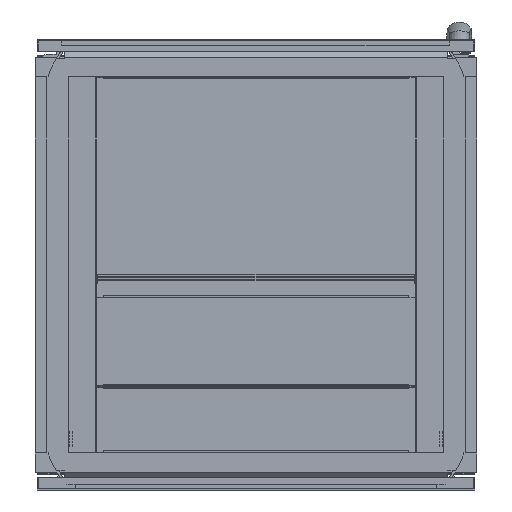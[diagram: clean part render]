
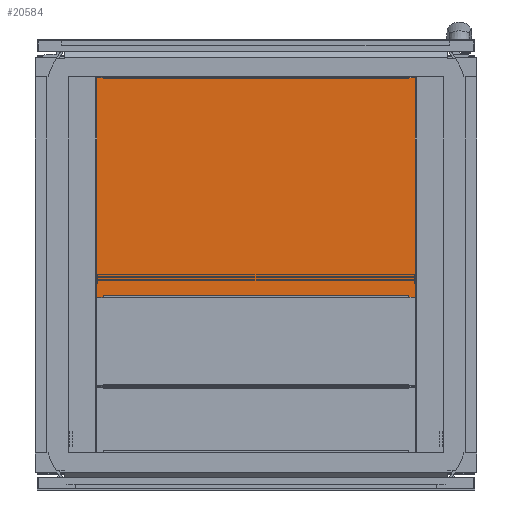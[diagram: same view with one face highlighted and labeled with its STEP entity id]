
A CAD part, front view. The second image highlights one B-rep face of the part: STEP entity #20584.
In plain terms, the highlighted planar face has unit normal (0, -1, 0).
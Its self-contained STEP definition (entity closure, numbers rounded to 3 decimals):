
#1049=ORIENTED_EDGE('',*,*,#6770,.T.);
#1050=ORIENTED_EDGE('',*,*,#6721,.T.);
#1051=ORIENTED_EDGE('',*,*,#6762,.F.);
#1052=ORIENTED_EDGE('',*,*,#6771,.F.);
#1053=ORIENTED_EDGE('',*,*,#6772,.F.);
#1054=ORIENTED_EDGE('',*,*,#6773,.F.);
#1055=ORIENTED_EDGE('',*,*,#6774,.F.);
#1056=ORIENTED_EDGE('',*,*,#6775,.F.);
#1057=ORIENTED_EDGE('',*,*,#6776,.F.);
#1058=ORIENTED_EDGE('',*,*,#6717,.T.);
#1059=ORIENTED_EDGE('',*,*,#6777,.F.);
#1060=ORIENTED_EDGE('',*,*,#6728,.F.);
#1061=ORIENTED_EDGE('',*,*,#6778,.F.);
#1062=ORIENTED_EDGE('',*,*,#6779,.F.);
#1063=ORIENTED_EDGE('',*,*,#6780,.F.);
#1064=ORIENTED_EDGE('',*,*,#6781,.F.);
#1065=ORIENTED_EDGE('',*,*,#6782,.F.);
#1066=ORIENTED_EDGE('',*,*,#6783,.F.);
#1067=ORIENTED_EDGE('',*,*,#6758,.F.);
#1068=ORIENTED_EDGE('',*,*,#6732,.F.);
#6717=EDGE_CURVE('',#9615,#9616,#11671,.T.);
#6721=EDGE_CURVE('',#9619,#9620,#11675,.T.);
#6728=EDGE_CURVE('',#9626,#9623,#11682,.T.);
#6732=EDGE_CURVE('',#9630,#9627,#11686,.T.);
#6758=EDGE_CURVE('',#9627,#9655,#11712,.T.);
#6762=EDGE_CURVE('',#9658,#9620,#11716,.T.);
#6770=EDGE_CURVE('',#9630,#9619,#11724,.T.);
#6771=EDGE_CURVE('',#9659,#9658,#11725,.T.);
#6772=EDGE_CURVE('',#9660,#9659,#11726,.T.);
#6773=EDGE_CURVE('',#9661,#9660,#11727,.T.);
#6774=EDGE_CURVE('',#9662,#9661,#11728,.T.);
#6775=EDGE_CURVE('',#9663,#9662,#11729,.T.);
#6776=EDGE_CURVE('',#9615,#9663,#11730,.T.);
#6777=EDGE_CURVE('',#9623,#9616,#11731,.T.);
#6778=EDGE_CURVE('',#9664,#9626,#11732,.T.);
#6779=EDGE_CURVE('',#9665,#9664,#11733,.T.);
#6780=EDGE_CURVE('',#9666,#9665,#11734,.T.);
#6781=EDGE_CURVE('',#9667,#9666,#11735,.T.);
#6782=EDGE_CURVE('',#9668,#9667,#11736,.T.);
#6783=EDGE_CURVE('',#9655,#9668,#11737,.T.);
#9615=VERTEX_POINT('',#29927);
#9616=VERTEX_POINT('',#29928);
#9619=VERTEX_POINT('',#29936);
#9620=VERTEX_POINT('',#29937);
#9623=VERTEX_POINT('',#29945);
#9626=VERTEX_POINT('',#29950);
#9627=VERTEX_POINT('',#29954);
#9630=VERTEX_POINT('',#29959);
#9655=VERTEX_POINT('',#30016);
#9658=VERTEX_POINT('',#30022);
#9659=VERTEX_POINT('',#30038);
#9660=VERTEX_POINT('',#30040);
#9661=VERTEX_POINT('',#30042);
#9662=VERTEX_POINT('',#30044);
#9663=VERTEX_POINT('',#30046);
#9664=VERTEX_POINT('',#30050);
#9665=VERTEX_POINT('',#30052);
#9666=VERTEX_POINT('',#30054);
#9667=VERTEX_POINT('',#30056);
#9668=VERTEX_POINT('',#30058);
#11671=LINE('',#29926,#14325);
#11675=LINE('',#29935,#14329);
#11682=LINE('',#29951,#14336);
#11686=LINE('',#29960,#14340);
#11712=LINE('',#30015,#14366);
#11716=LINE('',#30023,#14370);
#11724=LINE('',#30035,#14378);
#11725=LINE('',#30037,#14379);
#11726=LINE('',#30039,#14380);
#11727=LINE('',#30041,#14381);
#11728=LINE('',#30043,#14382);
#11729=LINE('',#30045,#14383);
#11730=LINE('',#30047,#14384);
#11731=LINE('',#30048,#14385);
#11732=LINE('',#30049,#14386);
#11733=LINE('',#30051,#14387);
#11734=LINE('',#30053,#14388);
#11735=LINE('',#30055,#14389);
#11736=LINE('',#30057,#14390);
#11737=LINE('',#30059,#14391);
#14325=VECTOR('',#24306,1000.);
#14329=VECTOR('',#24312,1000.);
#14336=VECTOR('',#24321,1000.);
#14340=VECTOR('',#24327,1000.);
#14366=VECTOR('',#24363,1000.);
#14370=VECTOR('',#24367,1000.);
#14378=VECTOR('',#24383,1000.);
#14379=VECTOR('',#24386,1000.);
#14380=VECTOR('',#24387,1000.);
#14381=VECTOR('',#24388,1000.);
#14382=VECTOR('',#24389,1000.);
#14383=VECTOR('',#24390,1000.);
#14384=VECTOR('',#24391,1000.);
#14385=VECTOR('',#24392,1000.);
#14386=VECTOR('',#24393,1000.);
#14387=VECTOR('',#24394,1000.);
#14388=VECTOR('',#24395,1000.);
#14389=VECTOR('',#24396,1000.);
#14390=VECTOR('',#24397,1000.);
#14391=VECTOR('',#24398,1000.);
#16884=EDGE_LOOP('',(#1049,#1050,#1051,#1052,#1053,#1054,#1055,#1056,#1057,
#1058,#1059,#1060,#1061,#1062,#1063,#1064,#1065,#1066,#1067,#1068));
#18240=FACE_BOUND('',#16884,.T.);
#19596=PLANE('',#22627);
#20584=ADVANCED_FACE('',(#18240),#19596,.F.);
#22627=AXIS2_PLACEMENT_3D('',#30036,#24384,#24385);
#24306=DIRECTION('',(0.,0.,1.));
#24312=DIRECTION('',(0.,0.,1.));
#24321=DIRECTION('',(0.,0.,1.));
#24327=DIRECTION('',(0.,0.,1.));
#24363=DIRECTION('',(1.,0.,0.));
#24367=DIRECTION('',(1.,0.,0.));
#24383=DIRECTION('',(-1.,0.,0.));
#24384=DIRECTION('',(0.,1.,0.));
#24385=DIRECTION('',(0.,0.,1.));
#24386=DIRECTION('',(0.,0.,1.));
#24387=DIRECTION('',(0.707,0.,0.707));
#24388=DIRECTION('',(0.,0.,1.));
#24389=DIRECTION('',(-0.707,0.,0.707));
#24390=DIRECTION('',(0.,0.,1.));
#24391=DIRECTION('',(-1.,0.,0.));
#24392=DIRECTION('',(-1.,0.,0.));
#24393=DIRECTION('',(-1.,0.,0.));
#24394=DIRECTION('',(0.,0.,-1.));
#24395=DIRECTION('',(-0.707,0.,-0.707));
#24396=DIRECTION('',(0.,0.,-1.));
#24397=DIRECTION('',(0.707,0.,-0.707));
#24398=DIRECTION('',(0.,0.,-1.));
#29926=CARTESIAN_POINT('',(-214.5,-1.,0.));
#29927=CARTESIAN_POINT('',(-214.5,-1.,-300.));
#29928=CARTESIAN_POINT('',(-214.5,-1.,-299.));
#29935=CARTESIAN_POINT('',(-214.5,-1.,0.));
#29936=CARTESIAN_POINT('',(-214.5,-1.,-1.));
#29937=CARTESIAN_POINT('',(-214.5,-1.,0.));
#29945=CARTESIAN_POINT('',(214.5,-1.,-299.));
#29950=CARTESIAN_POINT('',(214.5,-1.,-300.));
#29951=CARTESIAN_POINT('',(214.5,-1.,0.));
#29954=CARTESIAN_POINT('',(214.5,-1.,0.));
#29959=CARTESIAN_POINT('',(214.5,-1.,-1.));
#29960=CARTESIAN_POINT('',(214.5,-1.,0.));
#30015=CARTESIAN_POINT('',(-222.5,-1.,0.));
#30016=CARTESIAN_POINT('',(222.5,-1.,0.));
#30022=CARTESIAN_POINT('',(-222.5,-1.,0.));
#30023=CARTESIAN_POINT('',(-222.5,-1.,0.));
#30035=CARTESIAN_POINT('',(207.5,-1.,-1.));
#30036=CARTESIAN_POINT('',(207.5,-1.,-1.));
#30037=CARTESIAN_POINT('',(-222.5,-1.,-26.8));
#30038=CARTESIAN_POINT('',(-222.5,-1.,-26.8));
#30039=CARTESIAN_POINT('',(-233.8,-1.,-38.1));
#30040=CARTESIAN_POINT('',(-233.8,-1.,-38.1));
#30041=CARTESIAN_POINT('',(-233.8,-1.,-261.9));
#30042=CARTESIAN_POINT('',(-233.8,-1.,-261.9));
#30043=CARTESIAN_POINT('',(-222.5,-1.,-273.2));
#30044=CARTESIAN_POINT('',(-222.5,-1.,-273.2));
#30045=CARTESIAN_POINT('',(-222.5,-1.,-300.));
#30046=CARTESIAN_POINT('',(-222.5,-1.,-300.));
#30047=CARTESIAN_POINT('',(222.5,-1.,-300.));
#30048=CARTESIAN_POINT('',(207.5,-1.,-299.));
#30049=CARTESIAN_POINT('',(222.5,-1.,-300.));
#30050=CARTESIAN_POINT('',(222.5,-1.,-300.));
#30051=CARTESIAN_POINT('',(222.5,-1.,-273.2));
#30052=CARTESIAN_POINT('',(222.5,-1.,-273.2));
#30053=CARTESIAN_POINT('',(233.8,-1.,-261.9));
#30054=CARTESIAN_POINT('',(233.8,-1.,-261.9));
#30055=CARTESIAN_POINT('',(233.8,-1.,-38.1));
#30056=CARTESIAN_POINT('',(233.8,-1.,-38.1));
#30057=CARTESIAN_POINT('',(222.5,-1.,-26.8));
#30058=CARTESIAN_POINT('',(222.5,-1.,-26.8));
#30059=CARTESIAN_POINT('',(222.5,-1.,0.));
